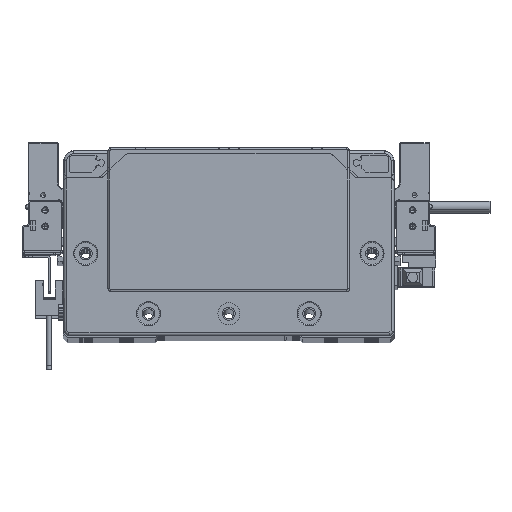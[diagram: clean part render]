
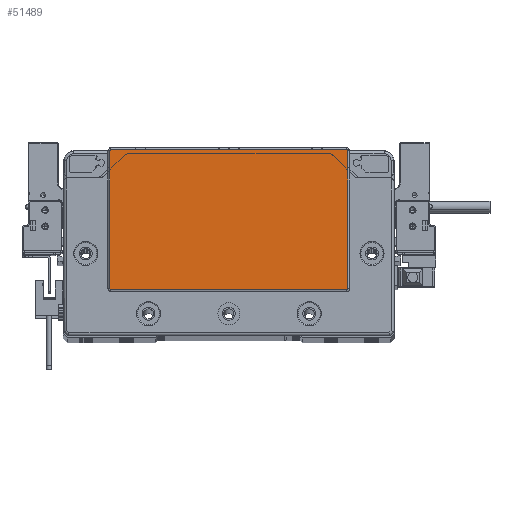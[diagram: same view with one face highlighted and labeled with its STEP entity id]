
A CAD part, top view. The second image highlights one B-rep face of the part: STEP entity #51489.
In plain terms, the highlighted planar face has unit normal (0, 0, 1) as drawn and (0, 0, -1) by its records, which use the part's own axes.
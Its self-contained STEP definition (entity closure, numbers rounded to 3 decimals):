
#3457 = DIRECTION ( 'NONE',  ( 0., 0., -1. ) ) ;
#4800 = DIRECTION ( 'NONE',  ( -1., 0., 0. ) ) ;
#4834 = CARTESIAN_POINT ( 'NONE',  ( -59.25, -23.3, -2. ) ) ;
#7224 = AXIS2_PLACEMENT_3D ( 'NONE', #81154, #3457, #107799 ) ;
#7566 = AXIS2_PLACEMENT_3D ( 'NONE', #64901, #21831, #4800 ) ;
#11116 = CIRCLE ( 'NONE', #72727, 0.5 ) ;
#11178 = FACE_OUTER_BOUND ( 'NONE', #21167, .T. ) ;
#11912 = VECTOR ( 'NONE', #103049, 1000. ) ;
#12118 = ORIENTED_EDGE ( 'NONE', *, *, #73955, .T. ) ;
#12425 = VECTOR ( 'NONE', #107495, 1000. ) ;
#13697 = DIRECTION ( 'NONE',  ( -1., 0., 0. ) ) ;
#18216 = CARTESIAN_POINT ( 'NONE',  ( 58.75, 45.8, -2. ) ) ;
#20701 = VECTOR ( 'NONE', #13697, 1000. ) ;
#20796 = PLANE ( 'NONE',  #42678 ) ;
#21167 = EDGE_LOOP ( 'NONE', ( #100208, #76481, #41093, #71109, #79791, #12118, #54914, #59134 ) ) ;
#21683 = DIRECTION ( 'NONE',  ( 0., 0., -1. ) ) ;
#21831 = DIRECTION ( 'NONE',  ( 0., 0., -1. ) ) ;
#21904 = EDGE_CURVE ( 'NONE', #71003, #33231, #41240, .T. ) ;
#27697 = EDGE_CURVE ( 'NONE', #110404, #93344, #91002, .T. ) ;
#29667 = CARTESIAN_POINT ( 'NONE',  ( 58.75, -23.8, -2. ) ) ;
#30589 = EDGE_CURVE ( 'NONE', #93344, #90958, #50975, .T. ) ;
#31873 = EDGE_CURVE ( 'NONE', #111626, #71003, #11116, .T. ) ;
#33231 = VERTEX_POINT ( 'NONE', #90356 ) ;
#33853 = CARTESIAN_POINT ( 'NONE',  ( -59.25, 45.3, -2. ) ) ;
#35227 = DIRECTION ( 'NONE',  ( 0., -1., 0. ) ) ;
#38836 = DIRECTION ( 'NONE',  ( 0., 0., -1. ) ) ;
#39688 = CARTESIAN_POINT ( 'NONE',  ( -58.75, -23.8, -2. ) ) ;
#40340 = VERTEX_POINT ( 'NONE', #108868 ) ;
#41093 = ORIENTED_EDGE ( 'NONE', *, *, #48611, .T. ) ;
#41240 = LINE ( 'NONE', #33853, #11912 ) ;
#42678 = AXIS2_PLACEMENT_3D ( 'NONE', #45735, #71843, #63314 ) ;
#45735 = CARTESIAN_POINT ( 'NONE',  ( 0., 0., -2. ) ) ;
#48611 = EDGE_CURVE ( 'NONE', #67603, #111626, #56708, .T. ) ;
#50975 = CIRCLE ( 'NONE', #7566, 0.5 ) ;
#51489 = ADVANCED_FACE ( 'NONE', ( #11178 ), #20796, .T. ) ;
#52778 = LINE ( 'NONE', #70398, #67755 ) ;
#54914 = ORIENTED_EDGE ( 'NONE', *, *, #27697, .T. ) ;
#55242 = CARTESIAN_POINT ( 'NONE',  ( 58.75, 45.8, -2. ) ) ;
#56042 = CIRCLE ( 'NONE', #7224, 0.5 ) ;
#56202 = DIRECTION ( 'NONE',  ( -1., 0., 0. ) ) ;
#56708 = LINE ( 'NONE', #91361, #20701 ) ;
#56911 = CARTESIAN_POINT ( 'NONE',  ( -58.75, -23.3, -2. ) ) ;
#57154 = EDGE_CURVE ( 'NONE', #40340, #67603, #56042, .T. ) ;
#59134 = ORIENTED_EDGE ( 'NONE', *, *, #30589, .T. ) ;
#63314 = DIRECTION ( 'NONE',  ( -1., 0., 0. ) ) ;
#64584 = EDGE_CURVE ( 'NONE', #90958, #40340, #52778, .T. ) ;
#64901 = CARTESIAN_POINT ( 'NONE',  ( 58.75, 45.3, -2. ) ) ;
#67603 = VERTEX_POINT ( 'NONE', #29667 ) ;
#67755 = VECTOR ( 'NONE', #35227, 1000. ) ;
#70398 = CARTESIAN_POINT ( 'NONE',  ( 59.25, -23.3, -2. ) ) ;
#71003 = VERTEX_POINT ( 'NONE', #4834 ) ;
#71109 = ORIENTED_EDGE ( 'NONE', *, *, #31873, .T. ) ;
#71843 = DIRECTION ( 'NONE',  ( 0., 0., -1. ) ) ;
#72727 = AXIS2_PLACEMENT_3D ( 'NONE', #56911, #38836, #74576 ) ;
#73955 = EDGE_CURVE ( 'NONE', #33231, #110404, #96250, .T. ) ;
#74576 = DIRECTION ( 'NONE',  ( -1., 0., 0. ) ) ;
#76481 = ORIENTED_EDGE ( 'NONE', *, *, #57154, .T. ) ;
#78132 = AXIS2_PLACEMENT_3D ( 'NONE', #107894, #21683, #56202 ) ;
#79791 = ORIENTED_EDGE ( 'NONE', *, *, #21904, .T. ) ;
#81154 = CARTESIAN_POINT ( 'NONE',  ( 58.75, -23.3, -2. ) ) ;
#90356 = CARTESIAN_POINT ( 'NONE',  ( -59.25, 45.3, -2. ) ) ;
#90958 = VERTEX_POINT ( 'NONE', #100769 ) ;
#91002 = LINE ( 'NONE', #55242, #12425 ) ;
#91361 = CARTESIAN_POINT ( 'NONE',  ( -58.75, -23.8, -2. ) ) ;
#93344 = VERTEX_POINT ( 'NONE', #18216 ) ;
#96250 = CIRCLE ( 'NONE', #78132, 0.5 ) ;
#100208 = ORIENTED_EDGE ( 'NONE', *, *, #64584, .T. ) ;
#100769 = CARTESIAN_POINT ( 'NONE',  ( 59.25, 45.3, -2. ) ) ;
#102582 = CARTESIAN_POINT ( 'NONE',  ( -58.75, 45.8, -2. ) ) ;
#103049 = DIRECTION ( 'NONE',  ( 0., 1., 0. ) ) ;
#107495 = DIRECTION ( 'NONE',  ( 1., 0., 0. ) ) ;
#107799 = DIRECTION ( 'NONE',  ( -1., 0., 0. ) ) ;
#107894 = CARTESIAN_POINT ( 'NONE',  ( -58.75, 45.3, -2. ) ) ;
#108868 = CARTESIAN_POINT ( 'NONE',  ( 59.25, -23.3, -2. ) ) ;
#110404 = VERTEX_POINT ( 'NONE', #102582 ) ;
#111626 = VERTEX_POINT ( 'NONE', #39688 ) ;
